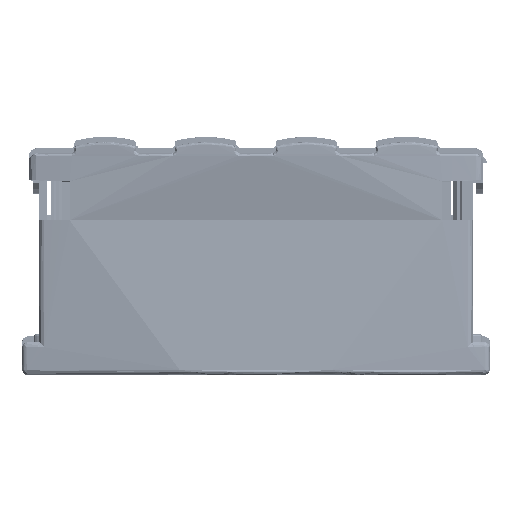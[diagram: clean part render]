
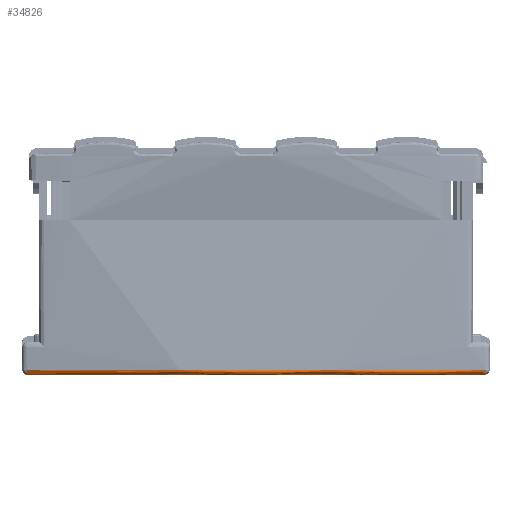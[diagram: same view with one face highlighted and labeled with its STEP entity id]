
A CAD part, front view. The second image highlights one B-rep face of the part: STEP entity #34826.
In plain terms, the highlighted free-form (B-spline) face has degree [3, 3] with [4, 4] control points.
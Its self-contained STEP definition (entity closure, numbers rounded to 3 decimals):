
#4039 = AXIS2_PLACEMENT_3D ( 'NONE', #34866, #81566, #41591 ) ;
#4921 = CARTESIAN_POINT ( 'NONE',  ( 13.763, -5.764, 0.414 ) ) ;
#7380 =( BOUNDED_CURVE ( )  B_SPLINE_CURVE ( 3, ( #85084, #51275, #11875, #58552 ),
 .UNSPECIFIED., .F., .F. ) 
 B_SPLINE_CURVE_WITH_KNOTS ( ( 4, 4 ),
 ( 0., 1. ),
 .UNSPECIFIED. ) 
 CURVE ( )  GEOMETRIC_REPRESENTATION_ITEM ( )  RATIONAL_B_SPLINE_CURVE ( ( 1., 0.994, 0.994, 1. ) ) 
 REPRESENTATION_ITEM ( '' )  );
#8497 = CARTESIAN_POINT ( 'NONE',  ( -41.034, -2.027, 0.866 ) ) ;
#9923 = EDGE_CURVE ( 'NONE', #56198, #42522, #13014, .T. ) ;
#10534 = FACE_OUTER_BOUND ( 'NONE', #51705, .T. ) ;
#11637 = CARTESIAN_POINT ( 'NONE',  ( -40.979, -1.626, 0. ) ) ;
#11875 = CARTESIAN_POINT ( 'NONE',  ( 13.718, -4.761, 0. ) ) ;
#12056 = CARTESIAN_POINT ( 'NONE',  ( -40.971, -1.566, 0. ) ) ;
#12856 = CARTESIAN_POINT ( 'NONE',  ( 41.035, -2.036, 1. ) ) ;
#13014 =( BOUNDED_CURVE ( )  B_SPLINE_CURVE ( 3, ( #65401, #58721, #12056, #72124 ),
 .UNSPECIFIED., .F., .T. ) 
 B_SPLINE_CURVE_WITH_KNOTS ( ( 4, 4 ),
 ( 0.086, 1. ),
 .UNSPECIFIED. ) 
 CURVE ( )  GEOMETRIC_REPRESENTATION_ITEM ( )  RATIONAL_B_SPLINE_CURVE ( ( 1., 0.835, 0.835, 1. ) ) 
 REPRESENTATION_ITEM ( '' )  );
#13994 = VERTEX_POINT ( 'NONE', #38445 ) ;
#15640 = ORIENTED_EDGE ( 'NONE', *, *, #58265, .T. ) ;
#18362 = CARTESIAN_POINT ( 'NONE',  ( 13.744, -5.349, 0. ) ) ;
#20106 = CARTESIAN_POINT ( 'NONE',  ( -40.9, -1.045, 0. ) ) ;
#21915 = CARTESIAN_POINT ( 'NONE',  ( -41.035, -2.036, 0.955 ) ) ;
#22504 = CIRCLE ( 'NONE', #4039, 303. ) ;
#23716 = ORIENTED_EDGE ( 'NONE', *, *, #9923, .T. ) ;
#25077 = CARTESIAN_POINT ( 'NONE',  ( -40.9, -1.045, 0. ) ) ;
#29530 = ORIENTED_EDGE ( 'NONE', *, *, #49145, .T. ) ;
#30790 = CARTESIAN_POINT ( 'NONE',  ( -41.035, -2.036, 1. ) ) ;
#31447 = CARTESIAN_POINT ( 'NONE',  ( -41.035, -2.036, 1. ) ) ;
#31727 = CARTESIAN_POINT ( 'NONE',  ( 13.718, -4.761, 0. ) ) ;
#34826 = ADVANCED_FACE ( 'NONE', ( #10534 ), #54576, .T. ) ;
#34866 = CARTESIAN_POINT ( 'NONE',  ( 0., 298.172, 1. ) ) ;
#35291 = CARTESIAN_POINT ( 'NONE',  ( -41.035, -2.033, 0.91 ) ) ;
#38137 = CARTESIAN_POINT ( 'NONE',  ( 41.035, -2.036, 1. ) ) ;
#38445 = CARTESIAN_POINT ( 'NONE',  ( 40.9, -1.045, 0. ) ) ;
#38866 =( BOUNDED_CURVE ( )  B_SPLINE_CURVE ( 3, ( #39356, #46066, #52776, #12856 ),
 .UNSPECIFIED., .F., .F. ) 
 B_SPLINE_CURVE_WITH_KNOTS ( ( 4, 4 ),
 ( 0., 1. ),
 .UNSPECIFIED. ) 
 CURVE ( )  GEOMETRIC_REPRESENTATION_ITEM ( )  RATIONAL_B_SPLINE_CURVE ( ( 1., 0.805, 0.805, 1. ) ) 
 REPRESENTATION_ITEM ( '' )  );
#39178 = EDGE_CURVE ( 'NONE', #50104, #59095, #22504, .T. ) ;
#39356 = CARTESIAN_POINT ( 'NONE',  ( 40.9, -1.045, 0. ) ) ;
#41591 = DIRECTION ( 'NONE',  ( 1., 0., 0. ) ) ;
#42522 = VERTEX_POINT ( 'NONE', #20106 ) ;
#44862 = CARTESIAN_POINT ( 'NONE',  ( -13.763, -5.764, 0.414 ) ) ;
#46066 = CARTESIAN_POINT ( 'NONE',  ( 40.979, -1.626, 0. ) ) ;
#46257 = EDGE_CURVE ( 'NONE', #42522, #13994, #7380, .T. ) ;
#49145 = EDGE_CURVE ( 'NONE', #13994, #59095, #38866, .T. ) ;
#50104 = VERTEX_POINT ( 'NONE', #30790 ) ;
#51275 = CARTESIAN_POINT ( 'NONE',  ( -13.718, -4.761, 0. ) ) ;
#51318 = CARTESIAN_POINT ( 'NONE',  ( -13.763, -5.764, 1. ) ) ;
#51589 = CARTESIAN_POINT ( 'NONE',  ( 41.035, -2.036, 0.414 ) ) ;
#51705 = EDGE_LOOP ( 'NONE', ( #29530, #56736, #15640, #23716, #68918 ) ) ;
#52776 = CARTESIAN_POINT ( 'NONE',  ( 41.035, -2.036, 0.414 ) ) ;
#53670 = CARTESIAN_POINT ( 'NONE',  ( 41.035, -2.036, 1. ) ) ;
#54576 =( BOUNDED_SURFACE ( )  B_SPLINE_SURFACE ( 3, 3, ( 
 ( #31447, #51318, #78149, #38137 ),
 ( #84845, #44862, #4921, #51589 ),
 ( #11637, #58312, #18362, #64982 ),
 ( #25077, #71683, #31727, #78424 ) ),
 .UNSPECIFIED., .F., .F., .F. ) 
 B_SPLINE_SURFACE_WITH_KNOTS ( ( 4, 4 ),
 ( 4, 4 ),
 ( 0., 1. ),
 ( 0., 1. ),
 .UNSPECIFIED. ) 
 GEOMETRIC_REPRESENTATION_ITEM ( )  RATIONAL_B_SPLINE_SURFACE ( (
 ( 1., 0.994, 0.994, 1.),
 ( 0.805, 0.8, 0.8, 0.805),
 ( 0.805, 0.8, 0.8, 0.805),
 ( 1., 0.994, 0.994, 1.) ) ) 
 REPRESENTATION_ITEM ( '' )  SURFACE ( )  );
#56198 = VERTEX_POINT ( 'NONE', #8497 ) ;
#56736 = ORIENTED_EDGE ( 'NONE', *, *, #39178, .F. ) ;
#58265 = EDGE_CURVE ( 'NONE', #50104, #56198, #68767, .T. ) ;
#58312 = CARTESIAN_POINT ( 'NONE',  ( -13.744, -5.349, 0. ) ) ;
#58552 = CARTESIAN_POINT ( 'NONE',  ( 40.9, -1.045, 0. ) ) ;
#58721 = CARTESIAN_POINT ( 'NONE',  ( -41.025, -1.957, 0.345 ) ) ;
#59095 = VERTEX_POINT ( 'NONE', #53670 ) ;
#64982 = CARTESIAN_POINT ( 'NONE',  ( 40.979, -1.626, 0. ) ) ;
#65401 = CARTESIAN_POINT ( 'NONE',  ( -41.034, -2.027, 0.866 ) ) ;
#68534 = CARTESIAN_POINT ( 'NONE',  ( -41.035, -2.036, 1. ) ) ;
#68767 =( BOUNDED_CURVE ( )  B_SPLINE_CURVE ( 3, ( #68534, #21915, #35291, #81959 ),
 .UNSPECIFIED., .F., .F. ) 
 B_SPLINE_CURVE_WITH_KNOTS ( ( 4, 4 ),
 ( 0., 0.086 ),
 .UNSPECIFIED. ) 
 CURVE ( )  GEOMETRIC_REPRESENTATION_ITEM ( )  RATIONAL_B_SPLINE_CURVE ( ( 1., 0.998, 0.998, 1. ) ) 
 REPRESENTATION_ITEM ( '' )  );
#68918 = ORIENTED_EDGE ( 'NONE', *, *, #46257, .T. ) ;
#71683 = CARTESIAN_POINT ( 'NONE',  ( -13.718, -4.761, 0. ) ) ;
#72124 = CARTESIAN_POINT ( 'NONE',  ( -40.9, -1.045, 0. ) ) ;
#78149 = CARTESIAN_POINT ( 'NONE',  ( 13.763, -5.764, 1. ) ) ;
#78424 = CARTESIAN_POINT ( 'NONE',  ( 40.9, -1.045, 0. ) ) ;
#81566 = DIRECTION ( 'NONE',  ( 0., 0., 1. ) ) ;
#81959 = CARTESIAN_POINT ( 'NONE',  ( -41.034, -2.027, 0.866 ) ) ;
#84845 = CARTESIAN_POINT ( 'NONE',  ( -41.035, -2.036, 0.414 ) ) ;
#85084 = CARTESIAN_POINT ( 'NONE',  ( -40.9, -1.045, 0. ) ) ;
